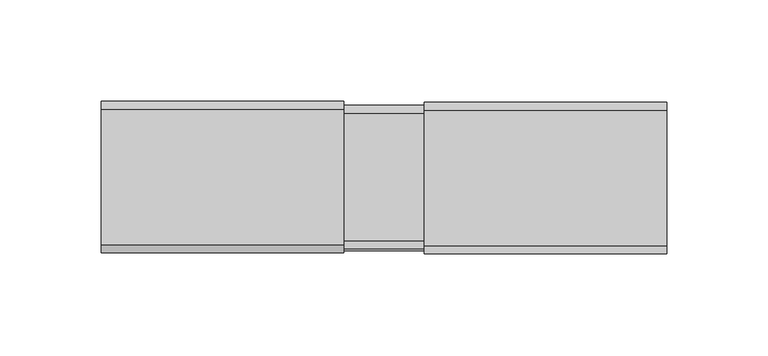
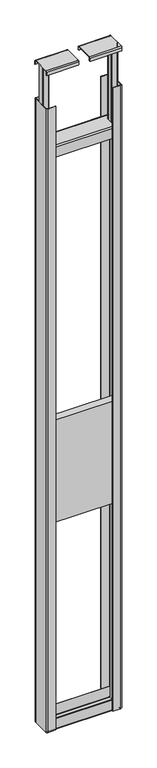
"""IFC4 building model written with IfcOpenShell, lengths in millimetres: flow terminal geometry, NLRS_74_PF_TLB_HU-ASM-UK-Leicht_Geberit : HU-ASM-UK-Leicht."""

from ifc_helpers import new_model, si_unit, point, frame, frame_2d, origin, place, context, project, spatial, polyline, circle_curve, trimmed, segment, composite_curve, outline, extrude, source, transform, mapped, element, save
from ifc_brep_helpers import plane_surface, cylinder_surface, revolved_surface, advanced_brep


def flow_terminal_d8f8a6fc(model_context):
    return source(origin(), model_context, "Body", "SolidModel", [
        extrude(outline(composite_curve([segment(polyline([(924.5814924, 0.0), (924.5814924, 2.0), (955.5814924, 2.0)]), True, "CONTINUOUS"), segment(trimmed(circle_curve(frame_2d((955.5814924, 4.0)), 2.0), [point((955.5814924, 2.0))], [point((957.5814924, 4.0))], True, "CARTESIAN"), True, "CONTINUOUS"), segment(polyline([(957.5814924, 4.0), (957.5814924, 71.0)]), True, "CONTINUOUS"), segment(trimmed(circle_curve(frame_2d((955.5814924, 71.0)), 2.0), [point((957.5814924, 71.0))], [point((955.5814924, 73.0))], True, "CARTESIAN"), True, "CONTINUOUS"), segment(polyline([(955.5814924, 73.0), (924.5814924, 73.0), (924.5814924, 75.0), (955.5814924, 75.0)]), True, "CONTINUOUS"), segment(trimmed(circle_curve(frame_2d((955.5814924, 71.0)), 4.0), [point((955.5814924, 75.0))], [point((959.5814924, 71.0))], False, "CARTESIAN"), True, "CONTINUOUS"), segment(polyline([(959.5814924, 71.0), (959.5814924, 4.0)]), True, "CONTINUOUS"), segment(trimmed(circle_curve(frame_2d((955.5814924, 4.0)), 4.0), [point((959.5814924, 4.0))], [point((955.5814924, 0.0))], False, "CARTESIAN"), True, "CONTINUOUS"), segment(polyline([(955.5814924, 0.0), (924.5814924, 0.0)]), True, "CONTINUOUS")], self_intersect=False)), frame((0.0, 0.0, -200.0), z_axis=(0.0, 0.0, 1.0), x_axis=(1.0, 0.0, 0.0)), (0.0, 0.0, 1.0), 2450.0),
        extrude(outline(composite_curve([segment(polyline([(714.5814924, 0.5), (683.5814924, 0.5)]), True, "CONTINUOUS"), segment(trimmed(circle_curve(frame_2d((683.5814924, 4.5)), 4.0), [point((683.5814924, 0.5))], [point((679.5814924, 4.5))], False, "CARTESIAN"), True, "CONTINUOUS"), segment(polyline([(679.5814924, 4.5), (679.5814924, 71.5)]), True, "CONTINUOUS"), segment(trimmed(circle_curve(frame_2d((683.5814924, 71.5)), 4.0), [point((679.5814924, 71.5))], [point((683.5814924, 75.5))], False, "CARTESIAN"), True, "CONTINUOUS"), segment(polyline([(683.5814924, 75.5), (714.5814924, 75.5), (714.5814924, 73.5), (683.5814924, 73.5)]), True, "CONTINUOUS"), segment(trimmed(circle_curve(frame_2d((683.5814924, 71.5)), 2.0), [point((683.5814924, 73.5))], [point((681.5814924, 71.5))], True, "CARTESIAN"), True, "CONTINUOUS"), segment(polyline([(681.5814924, 71.5), (681.5814924, 4.5)]), True, "CONTINUOUS"), segment(trimmed(circle_curve(frame_2d((683.5814924, 4.5)), 2.0), [point((681.5814924, 4.5))], [point((683.5814924, 2.5))], True, "CARTESIAN"), True, "CONTINUOUS"), segment(polyline([(683.5814924, 2.5), (714.5814924, 2.5), (714.5814924, 0.5)]), True, "CONTINUOUS")], self_intersect=False)), frame((0.0, 0.0, -200.0), z_axis=(0.0, 0.0, 1.0), x_axis=(1.0, 0.0, 0.0)), (0.0, 0.0, 1.0), 2450.0),
        extrude(outline(composite_curve([segment(polyline([(2.0, -156.0), (4.0, -156.0), (4.0, -196.0)]), True, "CONTINUOUS"), segment(trimmed(circle_curve(frame_2d((6.0, -196.0)), 2.0), [point((4.0, -196.0))], [point((6.0, -198.0))], True, "CARTESIAN"), True, "CONTINUOUS"), segment(polyline([(6.0, -198.0), (69.0, -198.0)]), True, "CONTINUOUS"), segment(trimmed(circle_curve(frame_2d((69.0, -196.0)), 2.0), [point((69.0, -198.0))], [point((71.0, -196.0))], True, "CARTESIAN"), True, "CONTINUOUS"), segment(polyline([(71.0, -196.0), (71.0, -156.0), (73.0, -156.0), (73.0, -196.0)]), True, "CONTINUOUS"), segment(trimmed(circle_curve(frame_2d((69.0, -196.0)), 4.0), [point((73.0, -196.0))], [point((69.0, -200.0))], False, "CARTESIAN"), True, "CONTINUOUS"), segment(polyline([(69.0, -200.0), (6.0, -200.0)]), True, "CONTINUOUS"), segment(trimmed(circle_curve(frame_2d((6.0, -196.0)), 4.0), [point((6.0, -200.0))], [point((2.0, -196.0))], False, "CARTESIAN"), True, "CONTINUOUS"), segment(polyline([(2.0, -196.0), (2.0, -156.0)]), True, "CONTINUOUS")], self_intersect=False)), frame((684.5814924, 0.0, 0.0), z_axis=(1.0, 0.0, 0.0), x_axis=(0.0, 1.0, 0.0)), (0.0, 0.0, 1.0), 270.0),
        extrude(outline(composite_curve([segment(polyline([(2.5, 2050.0), (2.5, 2090.0)]), True, "CONTINUOUS"), segment(trimmed(circle_curve(frame_2d((6.5, 2090.0)), 4.0), [point((2.5, 2090.0))], [point((6.5, 2094.0))], False, "CARTESIAN"), True, "CONTINUOUS"), segment(polyline([(6.5, 2094.0), (69.5, 2094.0)]), True, "CONTINUOUS"), segment(trimmed(circle_curve(frame_2d((69.5, 2090.0)), 4.0), [point((69.5, 2094.0))], [point((73.5, 2090.0))], False, "CARTESIAN"), True, "CONTINUOUS"), segment(polyline([(73.5, 2090.0), (73.5, 2050.0), (71.5, 2050.0), (71.5, 2090.0)]), True, "CONTINUOUS"), segment(trimmed(circle_curve(frame_2d((69.5, 2090.0)), 2.0), [point((71.5, 2090.0))], [point((69.5, 2092.0))], True, "CARTESIAN"), True, "CONTINUOUS"), segment(polyline([(69.5, 2092.0), (6.5, 2092.0)]), True, "CONTINUOUS"), segment(trimmed(circle_curve(frame_2d((6.5, 2090.0)), 2.0), [point((6.5, 2092.0))], [point((4.5, 2090.0))], True, "CARTESIAN"), True, "CONTINUOUS"), segment(polyline([(4.5, 2090.0), (4.5, 2050.0), (2.5, 2050.0)]), True, "CONTINUOUS")], self_intersect=False)), frame((684.5814924, 0.0, 0.0), z_axis=(1.0, 0.0, 0.0), x_axis=(0.0, 1.0, 0.0)), (0.0, 0.0, 1.0), 270.0),
        advanced_brep(
        [(839.5814924, 0.0, 2396.0), (839.5814924, 4.0, 2400.0), (839.5814924, 71.0, 2400.0), (839.5814924, 75.0, 2396.0), (839.5814924, 75.0, 2387.0), (839.5814924, 73.0, 2387.0), (839.5814924, 73.0, 2396.0), (839.5814924, 71.0, 2398.0), (839.5814924, 4.0, 2398.0), (839.5814924, 2.0, 2396.0), (839.5814924, 2.0, 2387.0), (839.5814924, 0.0, 2387.0), (959.5814924, 0.0, 2383.0), (959.5814924, 2.0, 2383.0), (959.5814924, 2.0, 2396.0), (959.5814924, 4.0, 2398.0), (959.5814924, 29.0, 2398.0), (959.5814924, 29.0, 2050.0), (959.5814924, 46.0, 2050.0), (959.5814924, 46.0, 2398.0), (959.5814924, 71.0, 2398.0), (959.5814924, 73.0, 2396.0), (959.5814924, 73.0, 2383.0), (959.5814924, 75.0, 2383.0), (959.5814924, 75.0, 2396.0), (959.5814924, 71.0, 2400.0), (959.5814924, 4.0, 2400.0), (959.5814924, 0.0, 2396.0), (843.5814924, 0.0, 2383.0), (843.5814924, 2.0, 2383.0), (955.5814924, 50.0, 2398.0), (938.5814924, 50.0, 2398.0), (934.5814924, 46.0, 2398.0), (934.5814924, 29.0, 2398.0), (938.5814924, 25.0, 2398.0), (955.5814924, 25.0, 2398.0), (938.5814924, 27.0, 2398.0), (936.5814924, 29.0, 2398.0), (936.5814924, 46.0, 2398.0), (938.5814924, 48.0, 2398.0), (955.5814924, 48.0, 2398.0), (957.5814924, 46.0, 2398.0), (957.5814924, 29.0, 2398.0), (955.5814924, 27.0, 2398.0), (843.5814924, 73.0, 2383.0), (843.5814924, 75.0, 2383.0), (938.5814924, 25.0, 2050.0), (934.5814924, 29.0, 2050.0), (934.5814924, 46.0, 2050.0), (938.5814924, 50.0, 2050.0), (955.5814924, 50.0, 2050.0), (955.5814924, 25.0, 2050.0), (938.5814924, 27.0, 2050.0), (955.5814924, 27.0, 2050.0), (957.5814924, 29.0, 2050.0), (957.5814924, 46.0, 2050.0), (955.5814924, 48.0, 2050.0), (938.5814924, 48.0, 2050.0), (936.5814924, 46.0, 2050.0), (936.5814924, 29.0, 2050.0)],
        [
            (0, 1, circle_curve(frame((839.5814924, 4.0, 2396.0), z_axis=(-1.0, 0.0, 0.0), x_axis=(0.0, 0.0, 1.0)), 4.0)),
            (1, 2),
            (2, 3, circle_curve(frame((839.5814924, 71.0, 2396.0), z_axis=(-1.0, 0.0, 0.0), x_axis=(0.0, 0.0, 1.0)), 4.0)),
            (3, 4),
            (4, 5),
            (5, 6),
            (6, 7, circle_curve(frame((839.5814924, 71.0, 2396.0), z_axis=(1.0, 0.0, 0.0), x_axis=(0.0, 0.0, 1.0)), 2.0)),
            (7, 8),
            (8, 9, circle_curve(frame((839.5814924, 4.0, 2396.0), z_axis=(1.0, 0.0, 0.0), x_axis=(0.0, 0.0, 1.0)), 2.0)),
            (9, 10),
            (10, 11),
            (11, 0),
            (12, 13),
            (13, 14),
            (14, 15, circle_curve(frame((959.5814924, 4.0, 2396.0), z_axis=(-1.0, 0.0, 0.0), x_axis=(0.0, 0.0, 1.0)), 2.0)),
            (15, 16),
            (16, 17),
            (17, 18),
            (18, 19),
            (19, 20),
            (20, 21, circle_curve(frame((959.5814924, 71.0, 2396.0), z_axis=(-1.0, 0.0, 0.0), x_axis=(0.0, 0.0, 1.0)), 2.0)),
            (21, 22),
            (22, 23),
            (23, 24),
            (24, 25, circle_curve(frame((959.5814924, 71.0, 2396.0), z_axis=(1.0, 0.0, 0.0), x_axis=(0.0, 0.0, 1.0)), 4.0)),
            (25, 26),
            (26, 27, circle_curve(frame((959.5814924, 4.0, 2396.0), z_axis=(1.0, 0.0, 0.0), x_axis=(0.0, 0.0, 1.0)), 4.0)),
            (27, 12),
            (12, 28),
            (28, 29),
            (29, 13),
            (29, 10, circle_curve(frame((843.5814924, 2.0, 2387.0), z_axis=(0.0, 1.0, 0.0), x_axis=(0.0, 0.0, 1.0)), 4.0)),
            (9, 14),
            (8, 15),
            (7, 20),
            (19, 30, circle_curve(frame((955.5814924, 46.0, 2398.0), z_axis=(0.0, 0.0, 1.0), x_axis=(-1.0, 0.0, 0.0)), 4.0)),
            (30, 31),
            (31, 32, circle_curve(frame((938.5814924, 46.0, 2398.0), z_axis=(0.0, 0.0, 1.0), x_axis=(-1.0, 0.0, 0.0)), 4.0)),
            (32, 33),
            (33, 34, circle_curve(frame((938.5814924, 29.0, 2398.0), z_axis=(0.0, 0.0, 1.0), x_axis=(-1.0, 0.0, 0.0)), 4.0)),
            (34, 35),
            (35, 16, circle_curve(frame((955.5814924, 29.0, 2398.0), z_axis=(0.0, 0.0, 1.0), x_axis=(-1.0, 0.0, 0.0)), 4.0)),
            (36, 37, circle_curve(frame((938.5814924, 29.0, 2398.0), z_axis=(0.0, 0.0, -1.0), x_axis=(-1.0, 0.0, 0.0)), 2.0)),
            (37, 38),
            (38, 39, circle_curve(frame((938.5814924, 46.0, 2398.0), z_axis=(0.0, 0.0, -1.0), x_axis=(-1.0, 0.0, 0.0)), 2.0)),
            (39, 40),
            (40, 41, circle_curve(frame((955.5814924, 46.0, 2398.0), z_axis=(0.0, 0.0, -1.0), x_axis=(-1.0, 0.0, 0.0)), 2.0)),
            (41, 42),
            (42, 43, circle_curve(frame((955.5814924, 29.0, 2398.0), z_axis=(0.0, 0.0, -1.0), x_axis=(-1.0, 0.0, 0.0)), 2.0)),
            (43, 36),
            (6, 21),
            (5, 44, circle_curve(frame((843.5814924, 73.0, 2387.0), z_axis=(0.0, -1.0, 0.0), x_axis=(0.0, 0.0, 1.0)), 4.0)),
            (44, 22),
            (44, 45),
            (45, 23),
            (45, 4, circle_curve(frame((843.5814924, 75.0, 2387.0), z_axis=(0.0, 1.0, 0.0), x_axis=(0.0, 0.0, 1.0)), 4.0)),
            (3, 24),
            (2, 25),
            (1, 26),
            (0, 27),
            (11, 28, circle_curve(frame((843.5814924, 0.0, 2387.0), z_axis=(0.0, -1.0, 0.0), x_axis=(0.0, 0.0, 1.0)), 4.0)),
            (46, 47, circle_curve(frame((938.5814924, 29.0, 2050.0), z_axis=(0.0, 0.0, -1.0), x_axis=(-1.0, 0.0, 0.0)), 4.0)),
            (47, 48),
            (48, 49, circle_curve(frame((938.5814924, 46.0, 2050.0), z_axis=(0.0, 0.0, -1.0), x_axis=(-1.0, 0.0, 0.0)), 4.0)),
            (49, 50),
            (50, 18, circle_curve(frame((955.5814924, 46.0, 2050.0), z_axis=(0.0, 0.0, -1.0), x_axis=(-1.0, 0.0, 0.0)), 4.0)),
            (17, 51, circle_curve(frame((955.5814924, 29.0, 2050.0), z_axis=(0.0, 0.0, -1.0), x_axis=(-1.0, 0.0, 0.0)), 4.0)),
            (51, 46),
            (52, 53),
            (53, 54, circle_curve(frame((955.5814924, 29.0, 2050.0), z_axis=(0.0, 0.0, 1.0), x_axis=(-1.0, 0.0, 0.0)), 2.0)),
            (54, 55),
            (55, 56, circle_curve(frame((955.5814924, 46.0, 2050.0), z_axis=(0.0, 0.0, 1.0), x_axis=(-1.0, 0.0, 0.0)), 2.0)),
            (56, 57),
            (57, 58, circle_curve(frame((938.5814924, 46.0, 2050.0), z_axis=(0.0, 0.0, 1.0), x_axis=(-1.0, 0.0, 0.0)), 2.0)),
            (58, 59),
            (59, 52, circle_curve(frame((938.5814924, 29.0, 2050.0), z_axis=(0.0, 0.0, 1.0), x_axis=(-1.0, 0.0, 0.0)), 2.0)),
            (51, 35),
            (34, 46),
            (50, 30),
            (49, 31),
            (48, 32),
            (47, 33),
            (59, 37),
            (36, 52),
            (58, 38),
            (57, 39),
            (56, 40),
            (55, 41),
            (54, 42),
            (53, 43),
        ],
        [
            plane_surface(frame((839.5814924, 2.0, 2383.0), z_axis=(-1.0, 0.0, 0.0), x_axis=(0.0, -1.0, 0.0))),
            plane_surface(frame((959.5814924, 2.0, 2383.0), z_axis=(1.0, 0.0, 0.0), x_axis=(0.0, 1.0, 0.0))),
            plane_surface(frame((959.5814924, 0.0, 2383.0), z_axis=(0.0, 0.0, -1.0), x_axis=(-1.0, 0.0, 0.0))),
            plane_surface(frame((959.5814924, 2.0, 2383.0), z_axis=(0.0, 1.0, 0.0), x_axis=(-1.0, 0.0, 0.0))),
            revolved_surface(polyline([(839.5814924, 4.0, 2398.0), (959.5814924, 4.0, 2398.0)]), (839.5814924, 4.0, 2396.0), (-1.0, 0.0, 0.0)),
            plane_surface(frame((959.5814924, 4.0, 2398.0), z_axis=(0.0, 0.0, -1.0), x_axis=(-1.0, 0.0, 0.0))),
            revolved_surface(polyline([(839.5814924, 71.0, 2398.0), (959.5814924, 71.0, 2398.0)]), (839.5814924, 71.0, 2396.0), (-1.0, 0.0, 0.0)),
            plane_surface(frame((959.5814924, 73.0, 2396.0), z_axis=(0.0, -1.0, 0.0), x_axis=(-1.0, 0.0, 0.0))),
            plane_surface(frame((959.5814924, 73.0, 2383.0), z_axis=(0.0, 0.0, -1.0), x_axis=(-1.0, 0.0, 0.0))),
            plane_surface(frame((959.5814924, 75.0, 2383.0), z_axis=(0.0, 1.0, 0.0), x_axis=(-1.0, 0.0, 0.0))),
            cylinder_surface(frame((839.5814924, 71.0, 2396.0), z_axis=(1.0, 0.0, 0.0), x_axis=(0.0, 0.0, 1.0)), 4.0),
            plane_surface(frame((959.5814924, 71.0, 2400.0), z_axis=(0.0, 0.0, 1.0), x_axis=(-1.0, 0.0, 0.0))),
            cylinder_surface(frame((839.5814924, 4.0, 2396.0), z_axis=(1.0, 0.0, 0.0), x_axis=(0.0, 0.0, 1.0)), 4.0),
            plane_surface(frame((959.5814924, 0.0, 2396.0), z_axis=(0.0, -1.0, 0.0), x_axis=(-1.0, 0.0, 0.0))),
            plane_surface(frame((959.5814924, 25.0, 2050.0), z_axis=(0.0, 0.0, -1.0), x_axis=(-1.0, 0.0, 0.0))),
            plane_surface(frame((938.5814924, 25.0, 2400.0), z_axis=(0.0, -1.0, 0.0), x_axis=(0.0, 0.0, -1.0))),
            cylinder_surface(frame((955.5814924, 29.0, 2050.0), z_axis=(0.0, 0.0, 1.0), x_axis=(-1.0, 0.0, 0.0)), 4.0),
            cylinder_surface(frame((955.5814924, 46.0, 2050.0), z_axis=(0.0, 0.0, 1.0), x_axis=(-1.0, 0.0, 0.0)), 4.0),
            plane_surface(frame((955.5814924, 50.0, 2400.0), z_axis=(0.0, 1.0, 0.0), x_axis=(0.0, 0.0, -1.0))),
            cylinder_surface(frame((938.5814924, 46.0, 2050.0), z_axis=(0.0, 0.0, 1.0), x_axis=(-1.0, 0.0, 0.0)), 4.0),
            plane_surface(frame((934.5814924, 46.0, 2400.0), z_axis=(-1.0, 0.0, 0.0), x_axis=(0.0, 0.0, -1.0))),
            cylinder_surface(frame((938.5814924, 29.0, 2050.0), z_axis=(0.0, 0.0, 1.0), x_axis=(-1.0, 0.0, 0.0)), 4.0),
            revolved_surface(polyline([(936.5814924, 29.0, 2050.0), (936.5814924, 29.0, 2398.0)]), (938.5814924, 29.0, 2050.0), (0.0, 0.0, -1.0)),
            plane_surface(frame((936.5814924, 29.0, 2400.0), z_axis=(1.0, 0.0, 0.0), x_axis=(0.0, 0.0, -1.0))),
            revolved_surface(polyline([(936.5814924, 46.0, 2050.0), (936.5814924, 46.0, 2398.0)]), (938.5814924, 46.0, 2050.0), (0.0, 0.0, -1.0)),
            plane_surface(frame((938.5814924, 48.0, 2400.0), z_axis=(0.0, -1.0, 0.0), x_axis=(0.0, 0.0, -1.0))),
            revolved_surface(polyline([(953.5814924, 46.0, 2050.0), (953.5814924, 46.0, 2398.0)]), (955.5814924, 46.0, 2050.0), (0.0, 0.0, -1.0)),
            plane_surface(frame((957.5814924, 46.0, 2400.0), z_axis=(-1.0, 0.0, 0.0), x_axis=(0.0, 0.0, -1.0))),
            revolved_surface(polyline([(953.5814924, 29.0, 2050.0), (953.5814924, 29.0, 2398.0)]), (955.5814924, 29.0, 2050.0), (0.0, 0.0, -1.0)),
            plane_surface(frame((955.5814924, 27.0, 2400.0), z_axis=(0.0, 1.0, 0.0), x_axis=(0.0, 0.0, -1.0))),
            cylinder_surface(frame((843.5814924, 120.0, 2387.0), z_axis=(0.0, 1.0, 0.0), x_axis=(0.0, 0.0, 1.0)), 4.0),
        ],
        [
            (0, [[1, 2, 3, 4, 5, 6, 7, 8, 9, 10, 11, 12]]),
            (1, [[13, 14, 15, 16, 17, 18, 19, 20, 21, 22, 23, 24, 25, 26, 27, 28]]),
            (2, [[-13, 29, 30, 31]]),
            (3, [[-14, -31, 32, -10, 33]]),
            (4, [[-9, 34, -15, -33]]),
            (5, [[-8, 35, -20, 36, 37, 38, 39, 40, 41, 42, -16, -34]]),
            (5, [[43, 44, 45, 46, 47, 48, 49, 50]]),
            (6, [[-7, 51, -21, -35]]),
            (7, [[-22, -51, -6, 52, 53]]),
            (8, [[-23, -53, 54, 55]]),
            (9, [[-24, -55, 56, -4, 57]]),
            (10, [[-3, 58, -25, -57]]),
            (11, [[-2, 59, -26, -58]]),
            (12, [[-1, 60, -27, -59]]),
            (13, [[-28, -60, -12, 61, -29]]),
            (14, [[62, 63, 64, 65, 66, -18, 67, 68], [69, 70, 71, 72, 73, 74, 75, 76]]),
            (15, [[-68, 77, -41, 78]]),
            (16, [[-67, -17, -42, -77]]),
            (17, [[-66, 79, -36, -19]]),
            (18, [[-65, 80, -37, -79]]),
            (19, [[-64, 81, -38, -80]]),
            (20, [[-63, 82, -39, -81]]),
            (21, [[-62, -78, -40, -82]]),
            (22, [[-76, 83, -43, 84]]),
            (23, [[-75, 85, -44, -83]]),
            (24, [[-74, 86, -45, -85]]),
            (25, [[-73, 87, -46, -86]]),
            (26, [[-72, 88, -47, -87]]),
            (27, [[-71, 89, -48, -88]]),
            (28, [[-70, 90, -49, -89]]),
            (29, [[-69, -84, -50, -90]]),
            (30, [[-5, -56, -54, -52]]),
            (30, [[-11, -32, -30, -61]]),
        ],
    ),
        advanced_brep(
        [(799.5814924, 0.5, 2396.0), (799.5814924, 0.5, 2387.0), (799.5814924, 2.5, 2387.0), (799.5814924, 2.5, 2396.0), (799.5814924, 4.5, 2398.0), (799.5814924, 71.5, 2398.0), (799.5814924, 73.5, 2396.0), (799.5814924, 73.5, 2387.0), (799.5814924, 75.5, 2387.0), (799.5814924, 75.5, 2396.0), (799.5814924, 71.5, 2400.0), (799.5814924, 4.5, 2400.0), (679.5814924, 0.5, 2383.0), (679.5814924, 0.5, 2396.0), (679.5814924, 4.5, 2400.0), (679.5814924, 71.5, 2400.0), (679.5814924, 75.5, 2396.0), (679.5814924, 75.5, 2383.0), (679.5814924, 73.5, 2383.0), (679.5814924, 73.5, 2396.0), (679.5814924, 71.5, 2398.0), (679.5814924, 46.5, 2398.0), (679.5814924, 46.5, 2050.0), (679.5814924, 29.5, 2050.0), (679.5814924, 29.5, 2398.0), (679.5814924, 4.5, 2398.0), (679.5814924, 2.5, 2396.0), (679.5814924, 2.5, 2383.0), (795.5814924, 2.5, 2383.0), (795.5814924, 0.5, 2383.0), (683.5814924, 25.5, 2398.0), (700.5814924, 25.5, 2398.0), (704.5814924, 29.5, 2398.0), (704.5814924, 46.5, 2398.0), (700.5814924, 50.5, 2398.0), (683.5814924, 50.5, 2398.0), (700.5814924, 27.5, 2398.0), (683.5814924, 27.5, 2398.0), (681.5814924, 29.5, 2398.0), (681.5814924, 46.5, 2398.0), (683.5814924, 48.5, 2398.0), (700.5814924, 48.5, 2398.0), (702.5814924, 46.5, 2398.0), (702.5814924, 29.5, 2398.0), (795.5814924, 73.5, 2383.0), (795.5814924, 75.5, 2383.0), (700.5814924, 25.5, 2050.0), (683.5814924, 25.5, 2050.0), (683.5814924, 50.5, 2050.0), (700.5814924, 50.5, 2050.0), (704.5814924, 46.5, 2050.0), (704.5814924, 29.5, 2050.0), (700.5814924, 27.5, 2050.0), (702.5814924, 29.5, 2050.0), (702.5814924, 46.5, 2050.0), (700.5814924, 48.5, 2050.0), (683.5814924, 48.5, 2050.0), (681.5814924, 46.5, 2050.0), (681.5814924, 29.5, 2050.0), (683.5814924, 27.5, 2050.0)],
        [
            (0, 1),
            (1, 2),
            (2, 3),
            (3, 4, circle_curve(frame((799.5814924, 4.5, 2396.0), z_axis=(-1.0, 0.0, 0.0), x_axis=(0.0, 0.0, 1.0)), 2.0)),
            (4, 5),
            (5, 6, circle_curve(frame((799.5814924, 71.5, 2396.0), z_axis=(-1.0, 0.0, 0.0), x_axis=(0.0, 0.0, 1.0)), 2.0)),
            (6, 7),
            (7, 8),
            (8, 9),
            (9, 10, circle_curve(frame((799.5814924, 71.5, 2396.0), z_axis=(1.0, 0.0, 0.0), x_axis=(0.0, 0.0, 1.0)), 4.0)),
            (10, 11),
            (11, 0, circle_curve(frame((799.5814924, 4.5, 2396.0), z_axis=(1.0, 0.0, 0.0), x_axis=(0.0, 0.0, 1.0)), 4.0)),
            (12, 13),
            (13, 14, circle_curve(frame((679.5814924, 4.5, 2396.0), z_axis=(-1.0, 0.0, 0.0), x_axis=(0.0, 0.0, 1.0)), 4.0)),
            (14, 15),
            (15, 16, circle_curve(frame((679.5814924, 71.5, 2396.0), z_axis=(-1.0, 0.0, 0.0), x_axis=(0.0, 0.0, 1.0)), 4.0)),
            (16, 17),
            (17, 18),
            (18, 19),
            (19, 20, circle_curve(frame((679.5814924, 71.5, 2396.0), z_axis=(1.0, 0.0, 0.0), x_axis=(0.0, 0.0, 1.0)), 2.0)),
            (20, 21),
            (21, 22),
            (22, 23),
            (23, 24),
            (24, 25),
            (25, 26, circle_curve(frame((679.5814924, 4.5, 2396.0), z_axis=(1.0, 0.0, 0.0), x_axis=(0.0, 0.0, 1.0)), 2.0)),
            (26, 27),
            (27, 12),
            (27, 28),
            (28, 29),
            (29, 12),
            (26, 3),
            (2, 28, circle_curve(frame((795.5814924, 2.5, 2387.0), z_axis=(0.0, 1.0, 0.0), x_axis=(0.0, 0.0, 1.0)), 4.0)),
            (25, 4),
            (24, 30, circle_curve(frame((683.5814924, 29.5, 2398.0), z_axis=(0.0, 0.0, 1.0), x_axis=(1.0, 0.0, 0.0)), 4.0)),
            (30, 31),
            (31, 32, circle_curve(frame((700.5814924, 29.5, 2398.0), z_axis=(0.0, 0.0, 1.0), x_axis=(1.0, 0.0, 0.0)), 4.0)),
            (32, 33),
            (33, 34, circle_curve(frame((700.5814924, 46.5, 2398.0), z_axis=(0.0, 0.0, 1.0), x_axis=(1.0, 0.0, 0.0)), 4.0)),
            (34, 35),
            (35, 21, circle_curve(frame((683.5814924, 46.5, 2398.0), z_axis=(0.0, 0.0, 1.0), x_axis=(1.0, 0.0, 0.0)), 4.0)),
            (20, 5),
            (36, 37),
            (37, 38, circle_curve(frame((683.5814924, 29.5, 2398.0), z_axis=(0.0, 0.0, -1.0), x_axis=(1.0, 0.0, 0.0)), 2.0)),
            (38, 39),
            (39, 40, circle_curve(frame((683.5814924, 46.5, 2398.0), z_axis=(0.0, 0.0, -1.0), x_axis=(1.0, 0.0, 0.0)), 2.0)),
            (40, 41),
            (41, 42, circle_curve(frame((700.5814924, 46.5, 2398.0), z_axis=(0.0, 0.0, -1.0), x_axis=(1.0, 0.0, 0.0)), 2.0)),
            (42, 43),
            (43, 36, circle_curve(frame((700.5814924, 29.5, 2398.0), z_axis=(0.0, 0.0, -1.0), x_axis=(1.0, 0.0, 0.0)), 2.0)),
            (19, 6),
            (18, 44),
            (44, 7, circle_curve(frame((795.5814924, 73.5, 2387.0), z_axis=(0.0, -1.0, 0.0), x_axis=(0.0, 0.0, 1.0)), 4.0)),
            (17, 45),
            (45, 44),
            (16, 9),
            (8, 45, circle_curve(frame((795.5814924, 75.5, 2387.0), z_axis=(0.0, 1.0, 0.0), x_axis=(0.0, 0.0, 1.0)), 4.0)),
            (15, 10),
            (14, 11),
            (13, 0),
            (29, 1, circle_curve(frame((795.5814924, 0.5, 2387.0), z_axis=(0.0, -1.0, 0.0), x_axis=(0.0, 0.0, 1.0)), 4.0)),
            (46, 47),
            (47, 23, circle_curve(frame((683.5814924, 29.5, 2050.0), z_axis=(0.0, 0.0, -1.0), x_axis=(1.0, 0.0, 0.0)), 4.0)),
            (22, 48, circle_curve(frame((683.5814924, 46.5, 2050.0), z_axis=(0.0, 0.0, -1.0), x_axis=(1.0, 0.0, 0.0)), 4.0)),
            (48, 49),
            (49, 50, circle_curve(frame((700.5814924, 46.5, 2050.0), z_axis=(0.0, 0.0, -1.0), x_axis=(1.0, 0.0, 0.0)), 4.0)),
            (50, 51),
            (51, 46, circle_curve(frame((700.5814924, 29.5, 2050.0), z_axis=(0.0, 0.0, -1.0), x_axis=(1.0, 0.0, 0.0)), 4.0)),
            (52, 53, circle_curve(frame((700.5814924, 29.5, 2050.0), z_axis=(0.0, 0.0, 1.0), x_axis=(1.0, 0.0, 0.0)), 2.0)),
            (53, 54),
            (54, 55, circle_curve(frame((700.5814924, 46.5, 2050.0), z_axis=(0.0, 0.0, 1.0), x_axis=(1.0, 0.0, 0.0)), 2.0)),
            (55, 56),
            (56, 57, circle_curve(frame((683.5814924, 46.5, 2050.0), z_axis=(0.0, 0.0, 1.0), x_axis=(1.0, 0.0, 0.0)), 2.0)),
            (57, 58),
            (58, 59, circle_curve(frame((683.5814924, 29.5, 2050.0), z_axis=(0.0, 0.0, 1.0), x_axis=(1.0, 0.0, 0.0)), 2.0)),
            (59, 52),
            (46, 31),
            (30, 47),
            (35, 48),
            (34, 49),
            (33, 50),
            (32, 51),
            (52, 36),
            (43, 53),
            (42, 54),
            (41, 55),
            (40, 56),
            (39, 57),
            (38, 58),
            (37, 59),
        ],
        [
            plane_surface(frame((799.5814924, 2.5, 2383.0), z_axis=(1.0, 0.0, 0.0), x_axis=(0.0, -1.0, 0.0))),
            plane_surface(frame((679.5814924, 2.5, 2383.0), z_axis=(-1.0, 0.0, 0.0), x_axis=(0.0, 1.0, 0.0))),
            plane_surface(frame((679.5814924, 0.5, 2383.0), z_axis=(0.0, 0.0, -1.0), x_axis=(1.0, 0.0, 0.0))),
            plane_surface(frame((679.5814924, 2.5, 2383.0), z_axis=(0.0, 1.0, 0.0), x_axis=(1.0, 0.0, 0.0))),
            revolved_surface(polyline([(799.5814924, 4.5, 2398.0), (679.5814924, 4.5, 2398.0)]), (799.5814924, 4.5, 2396.0), (1.0, 0.0, 0.0)),
            plane_surface(frame((679.5814924, 4.5, 2398.0), z_axis=(0.0, 0.0, -1.0), x_axis=(1.0, 0.0, 0.0))),
            revolved_surface(polyline([(799.5814924, 71.5, 2398.0), (679.5814924, 71.5, 2398.0)]), (799.5814924, 71.5, 2396.0), (1.0, 0.0, 0.0)),
            plane_surface(frame((679.5814924, 73.5, 2396.0), z_axis=(0.0, -1.0, 0.0), x_axis=(1.0, 0.0, 0.0))),
            plane_surface(frame((679.5814924, 73.5, 2383.0), z_axis=(0.0, 0.0, -1.0), x_axis=(1.0, 0.0, 0.0))),
            plane_surface(frame((679.5814924, 75.5, 2383.0), z_axis=(0.0, 1.0, 0.0), x_axis=(1.0, 0.0, 0.0))),
            cylinder_surface(frame((799.5814924, 71.5, 2396.0), z_axis=(-1.0, 0.0, 0.0), x_axis=(0.0, 0.0, 1.0)), 4.0),
            plane_surface(frame((679.5814924, 71.5, 2400.0), z_axis=(0.0, 0.0, 1.0), x_axis=(1.0, 0.0, 0.0))),
            cylinder_surface(frame((799.5814924, 4.5, 2396.0), z_axis=(-1.0, 0.0, 0.0), x_axis=(0.0, 0.0, 1.0)), 4.0),
            plane_surface(frame((679.5814924, 0.5, 2396.0), z_axis=(0.0, -1.0, 0.0), x_axis=(1.0, 0.0, 0.0))),
            plane_surface(frame((679.5814924, 25.5, 2050.0), z_axis=(0.0, 0.0, -1.0), x_axis=(1.0, 0.0, 0.0))),
            plane_surface(frame((700.5814924, 25.5, 2400.0), z_axis=(0.0, -1.0, 0.0), x_axis=(0.0, 0.0, -1.0))),
            cylinder_surface(frame((683.5814924, 29.5, 2050.0), z_axis=(0.0, 0.0, 1.0), x_axis=(1.0, 0.0, 0.0)), 4.0),
            cylinder_surface(frame((683.5814924, 46.5, 2050.0), z_axis=(0.0, 0.0, 1.0), x_axis=(1.0, 0.0, 0.0)), 4.0),
            plane_surface(frame((683.5814924, 50.5, 2400.0), z_axis=(0.0, 1.0, 0.0), x_axis=(0.0, 0.0, -1.0))),
            cylinder_surface(frame((700.5814924, 46.5, 2050.0), z_axis=(0.0, 0.0, 1.0), x_axis=(1.0, 0.0, 0.0)), 4.0),
            plane_surface(frame((704.5814924, 46.5, 2400.0), z_axis=(1.0, 0.0, 0.0), x_axis=(0.0, 0.0, -1.0))),
            cylinder_surface(frame((700.5814924, 29.5, 2050.0), z_axis=(0.0, 0.0, 1.0), x_axis=(1.0, 0.0, 0.0)), 4.0),
            revolved_surface(polyline([(702.5814924, 29.5, 2050.0), (702.5814924, 29.5, 2398.0)]), (700.5814924, 29.5, 2050.0), (0.0, 0.0, -1.0)),
            plane_surface(frame((702.5814924, 29.5, 2400.0), z_axis=(-1.0, 0.0, 0.0), x_axis=(0.0, 0.0, -1.0))),
            revolved_surface(polyline([(702.5814924, 46.5, 2050.0), (702.5814924, 46.5, 2398.0)]), (700.5814924, 46.5, 2050.0), (0.0, 0.0, -1.0)),
            plane_surface(frame((700.5814924, 48.5, 2400.0), z_axis=(0.0, -1.0, 0.0), x_axis=(0.0, 0.0, -1.0))),
            revolved_surface(polyline([(685.5814924, 46.5, 2050.0), (685.5814924, 46.5, 2398.0)]), (683.5814924, 46.5, 2050.0), (0.0, 0.0, -1.0)),
            plane_surface(frame((681.5814924, 46.5, 2400.0), z_axis=(1.0, 0.0, 0.0), x_axis=(0.0, 0.0, -1.0))),
            revolved_surface(polyline([(685.5814924, 29.5, 2050.0), (685.5814924, 29.5, 2398.0)]), (683.5814924, 29.5, 2050.0), (0.0, 0.0, -1.0)),
            plane_surface(frame((683.5814924, 27.5, 2400.0), z_axis=(0.0, 1.0, 0.0), x_axis=(0.0, 0.0, -1.0))),
            cylinder_surface(frame((795.5814924, 120.5, 2387.0), z_axis=(0.0, 1.0, 0.0), x_axis=(0.0, 0.0, 1.0)), 4.0),
        ],
        [
            (0, [[1, 2, 3, 4, 5, 6, 7, 8, 9, 10, 11, 12]]),
            (1, [[13, 14, 15, 16, 17, 18, 19, 20, 21, 22, 23, 24, 25, 26, 27, 28]]),
            (2, [[29, 30, 31, -28]]),
            (3, [[32, -3, 33, -29, -27]]),
            (4, [[-32, -26, 34, -4]]),
            (5, [[-34, -25, 35, 36, 37, 38, 39, 40, 41, -21, 42, -5]]),
            (5, [[43, 44, 45, 46, 47, 48, 49, 50]]),
            (6, [[-42, -20, 51, -6]]),
            (7, [[52, 53, -7, -51, -19]]),
            (8, [[54, 55, -52, -18]]),
            (9, [[56, -9, 57, -54, -17]]),
            (10, [[-56, -16, 58, -10]]),
            (11, [[-58, -15, 59, -11]]),
            (12, [[-59, -14, 60, -12]]),
            (13, [[-31, 61, -1, -60, -13]]),
            (14, [[62, 63, -23, 64, 65, 66, 67, 68], [69, 70, 71, 72, 73, 74, 75, 76]]),
            (15, [[77, -36, 78, -62]]),
            (16, [[-78, -35, -24, -63]]),
            (17, [[-22, -41, 79, -64]]),
            (18, [[-79, -40, 80, -65]]),
            (19, [[-80, -39, 81, -66]]),
            (20, [[-81, -38, 82, -67]]),
            (21, [[-82, -37, -77, -68]]),
            (22, [[83, -50, 84, -69]]),
            (23, [[-84, -49, 85, -70]]),
            (24, [[-85, -48, 86, -71]]),
            (25, [[-86, -47, 87, -72]]),
            (26, [[-87, -46, 88, -73]]),
            (27, [[-88, -45, 89, -74]]),
            (28, [[-89, -44, 90, -75]]),
            (29, [[-90, -43, -83, -76]]),
            (30, [[-53, -55, -57, -8]]),
            (30, [[-61, -30, -33, -2]]),
        ],
    ),
        extrude(outline(polyline([(949.5814924, 22.5), (689.5814924, 22.5), (689.5814924, 52.5), (949.5814924, 52.5), (949.5814924, 22.5)])), frame((0.0, 0.0, 600.0), z_axis=(0.0, 0.0, 1.0), x_axis=(1.0, 0.0, 0.0)), (0.0, 0.0, 1.0), 400.0),
    ])


if __name__ == "__main__":
    model = new_model("IFC4")
    model_context = context("Model", 3, world=origin())
    ifc_project = project(units=[si_unit("LENGTHUNIT", "METRE", prefix="MILLI")], contexts=[model_context])
    site = spatial("IfcSite", under=ifc_project)
    building = spatial("IfcBuilding", under=site)
    placement = place(None, origin())
    flow_terminal_shape = flow_terminal_d8f8a6fc(model_context)
    element("IfcFlowTerminal", 1, ObjectType="NLRS_74_PF_TLB_HU-ASM-UK-Leicht_Geberit : HU-ASM-UK-Leicht", at=placement, inside=building, context=model_context, shape_type="MappedRepresentation", body=[
        mapped(flow_terminal_shape, transform((0.0, 0.0, 0.0), x_axis=(1.0, 0.0, 0.0), y_axis=(0.0, 1.0, 0.0), z_axis=(0.0, 0.0, 1.0))),
    ])
    save(model, "model.ifc")
